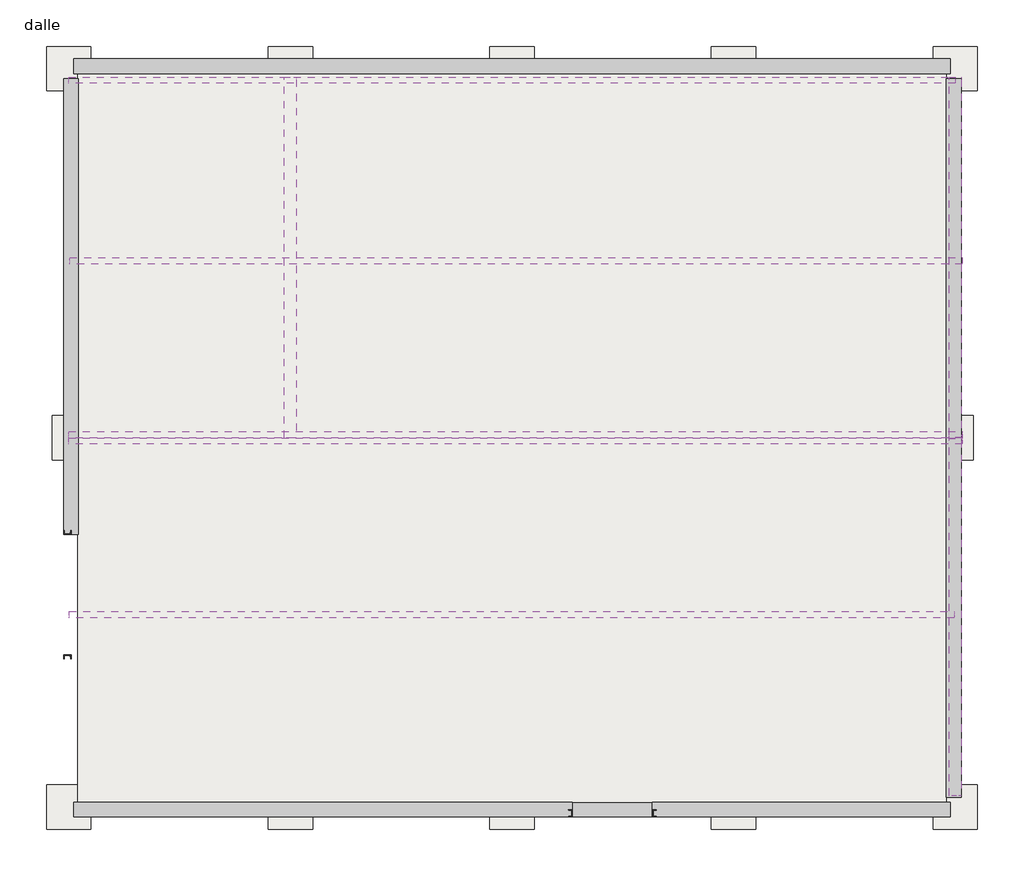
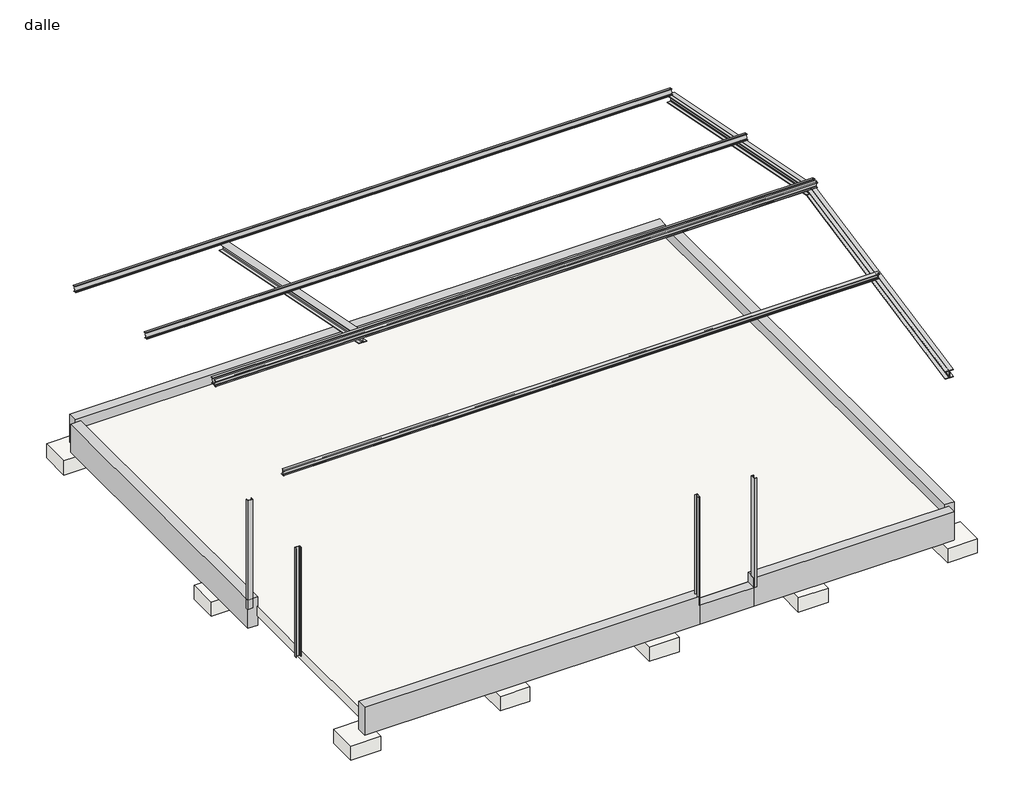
# One storey: 14 beams, 13 slabs, 4 columns.
"""IFC4 building model written with IfcOpenShell, lengths in millimetres."""

from ifc_helpers import new_model, si_unit, point, frame, frame_2d, origin, origin_with_axes, place, context, project, spatial, polyline, circle_curve, ellipse_curve, trimmed, segment, composite_curve, outline, extrude, faceted_brep, transform, mapped, element, save
from ifc_brep_helpers import plane_surface, revolved_surface, advanced_brep
from components import ipe_ipe120_c653d2c4, ipe_ipe120_d9a7a0b2, ipe_ipe120_cd6d0a2a, ipe_ipe120_51c86144, ipe_ipe120_70a96d47

model = new_model("IFC4")

# Units and contexts
model_context = context("Model", 3, world=origin())
ifc_project = project(units=[si_unit("LENGTHUNIT", "METRE", prefix="MILLI")], contexts=[model_context])

# Site, building, storey
site = spatial("IfcSite", under=ifc_project)
building = spatial("IfcBuilding", under=site)
storey = spatial("IfcBuildingStorey", under=building, Name="dalle", Elevation=0.0)

# Beams
placement = place(None, origin())
element("IfcBeam", 1, ObjectType="Poutre rectangulaire - Béton : longrine", at=placement, inside=storey, context=model_context, shape_type="SweptSolid", body=[
    extrude(outline(polyline([(-4301.8291149, 11052.4635983), (-4301.8291149, 10852.4635983), (-16165.8291149, 10852.4635983), (-16165.8291149, 11052.4635983), (-4301.8291149, 11052.4635983)])), frame((0.0, 0.0, -400.0), z_axis=(0.0, 0.0, 1.0), x_axis=(1.0, 0.0, 0.0)), (0.0, 0.0, 1.0), 600.0),
])
element("IfcBeam", 2, ObjectType="Poutre rectangulaire - Béton : longrine", at=placement, inside=storey, context=model_context, shape_type="SweptSolid", body=[
    extrude(outline(polyline([(-4153.8291149, 1052.4635983), (-4353.8291149, 1052.4635983), (-4353.8291149, 10781.4635983), (-4153.8291149, 10781.4635983), (-4153.8291149, 1052.4635983)])), frame((0.0, 0.0, -400.0), z_axis=(0.0, 0.0, 1.0), x_axis=(1.0, 0.0, 0.0)), (0.0, 0.0, 1.0), 600.0),
])
element("IfcBeam", 3, ObjectType="Poutre rectangulaire - Béton : longrine", at=placement, inside=storey, context=model_context, shape_type="Brep", body=[
    faceted_brep([(-16164.1291149, 982.4635983, 200.0), (-16164.1291149, 982.4635983, -400.0), (-16164.1291149, 782.4635983, -400.0), (-16164.1291149, 782.4635983, 200.0), (-9418.4291149, 982.4635983, 200.0), (-9418.4291149, 782.4635983, 200.0), (-9418.4291149, 782.4635983, 0.0), (-9418.4291149, 782.4635983, -400.0), (-9418.4291149, 982.4635983, -400.0), (-9418.4291149, 982.4635983, 0.0)], [[[0, 1, 2, 3]], [[4, 5, 6, 7, 8, 9]], [[1, 0, 4, 9, 8]], [[2, 1, 8, 7]], [[3, 2, 7, 6, 5]], [[0, 3, 5, 4]]]),
])
element("IfcBeam", 4, ObjectType="Poutre rectangulaire - Béton : longrine", at=placement, inside=storey, context=model_context, shape_type="Brep", body=[
    faceted_brep([(-16301.3291149, 4612.2741428, 200.0), (-16301.3291149, 4612.2741428, 0.0), (-16301.3291149, 4612.2741428, -400.0), (-16101.3291149, 4612.2741428, -400.0), (-16101.3291149, 4612.2741428, -200.0), (-16110.5291149, 4612.2741428, -200.0), (-16110.5291149, 4612.2741428, 0.0), (-16101.3291149, 4612.2741428, 0.0), (-16101.3291149, 4612.2741428, 200.0), (-16301.3291149, 10781.9741428, 200.0), (-16101.3291149, 10781.9741428, 200.0), (-16101.3291149, 10781.9741428, 0.0), (-16110.5291149, 10781.9741428, 0.0), (-16110.5291149, 10781.9741428, -200.0), (-16101.3291149, 10781.9741428, -200.0), (-16101.3291149, 10781.9741428, -400.0), (-16301.3291149, 10781.9741428, -400.0)], [[[0, 1, 2, 3, 4, 5, 6, 7, 8]], [[9, 10, 11, 12, 13, 14, 15, 16]], [[2, 1, 0, 9, 16]], [[3, 2, 16, 15]], [[3, 15, 14, 4]], [[0, 8, 10, 9]], [[6, 12, 11, 7]], [[12, 6, 5, 13]], [[13, 5, 4, 14]], [[10, 8, 7, 11]]]),
])
element("IfcBeam", 5, ObjectType="Poutre rectangulaire - Béton : longrine", at=placement, inside=storey, context=model_context, shape_type="SweptSolid", body=[
    extrude(outline(polyline([(-8333.0291149, 782.4635983), (-8333.0291149, 982.4635983), (-4301.3291149, 982.4635983), (-4301.3291149, 782.4635983), (-8333.0291149, 782.4635983)])), frame((0.0, 0.0, -399.8400082), z_axis=(0.0, 0.0, 1.0), x_axis=(1.0, 0.0, 0.0)), (0.0, 0.0, 1.0), 600.0),
])
element("IfcBeam", 6, ObjectType="Poutre rectangulaire - Béton : petie longrine", at=placement, inside=storey, context=model_context, shape_type="SweptSolid", body=[
    extrude(outline(polyline([(-8333.0291149, 982.4635983), (-8333.0291149, 782.4635983), (-9418.4291149, 782.4635983), (-9418.4291149, 982.4635983), (-8333.0291149, 982.4635983)])), frame((0.0, 0.0, -400.0), z_axis=(0.0, 0.0, 1.0), x_axis=(1.0, 0.0, 0.0)), (0.0, 0.0, 1.0), 400.0),
])
element("IfcBeam", 7, ObjectType="HE-A : HEA160", at=placement, inside=storey, context=model_context, shape_type="AdvancedBrep", body=[
    advanced_brep(
    [(-4313.8291149, 5908.0261193, 3825.2805461), (-4251.8291149, 5908.0261193, 3825.2805461), (-4236.8291149, 5905.0843773, 3839.9892562), (-4236.8291149, 5884.6882992, 3941.9696465), (-4251.8291149, 5881.7465572, 3956.6783566), (-4313.8291149, 5881.7465572, 3956.6783566), (-4313.8291149, 5879.981512, 3965.5035827), (-4153.8291149, 5879.981512, 3965.5035827), (-4153.8291149, 5881.7465572, 3956.6783566), (-4215.8291149, 5881.7465572, 3956.6783566), (-4230.8291149, 5884.6882992, 3941.9696465), (-4230.8291149, 5905.0843773, 3839.9892562), (-4215.8291149, 5908.0261193, 3825.2805461), (-4153.8291149, 5908.0261193, 3825.2805461), (-4153.8291149, 5909.7911645, 3816.45532), (-4313.8291149, 5909.7911645, 3816.45532), (-4313.8291149, 1072.4635983, 2858.1680419), (-4251.8291149, 1072.4635983, 2858.1680419), (-4236.8291149, 1072.4635983, 2873.4651005), (-4236.8291149, 1072.4635983, 2979.5247063), (-4251.8291149, 1072.4635983, 2994.8217649), (-4313.8291149, 1072.4635983, 2994.8217649), (-4313.8291149, 1072.4635983, 3004.0), (-4153.8291149, 1072.4635983, 3004.0), (-4153.8291149, 1072.4635983, 2994.8217649), (-4215.8291149, 1072.4635983, 2994.8217649), (-4230.8291149, 1072.4635983, 2979.5247063), (-4230.8291149, 1072.4635983, 2873.4651005), (-4215.8291149, 1072.4635983, 2858.1680419), (-4153.8291149, 1072.4635983, 2858.1680419), (-4153.8291149, 1072.4635983, 2848.9898068), (-4313.8291149, 1072.4635983, 2848.9898068)],
    [
        (0, 1),
        (1, 2, circle_curve(frame((-4251.8291149, 5905.0843773, 3839.9892562), z_axis=(0.0, -0.9805806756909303, -0.19611613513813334), x_axis=(1.0, 0.0, 0.0)), 15.0)),
        (2, 3),
        (3, 4, circle_curve(frame((-4251.8291149, 5884.6882992, 3941.9696465), z_axis=(0.0, -0.9805806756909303, -0.19611613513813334), x_axis=(1.0, 0.0, 0.0)), 15.0)),
        (4, 5),
        (5, 6),
        (6, 7),
        (7, 8),
        (8, 9),
        (9, 10, circle_curve(frame((-4215.8291149, 5884.6882992, 3941.9696465), z_axis=(0.0, -0.9805806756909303, -0.19611613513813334), x_axis=(1.0, 0.0, 0.0)), 15.0)),
        (10, 11),
        (11, 12, circle_curve(frame((-4215.8291149, 5905.0843773, 3839.9892562), z_axis=(0.0, -0.9805806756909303, -0.19611613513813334), x_axis=(1.0, 0.0, 0.0)), 15.0)),
        (12, 13),
        (13, 14),
        (14, 15),
        (15, 0),
        (0, 16),
        (16, 17),
        (17, 1),
        (17, 18, ellipse_curve(frame((-4251.8291149, 1072.4635983, 2873.4651005), z_axis=(0.0, -1.0, 0.0), x_axis=(0.0, 0.0, -0.9999999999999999)), 15.2970585, 15.0)),
        (18, 2),
        (18, 19),
        (19, 3),
        (19, 20, ellipse_curve(frame((-4251.8291149, 1072.4635983, 2979.5247063), z_axis=(0.0, -1.0, 0.0), x_axis=(0.0, 0.0, -0.9999999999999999)), 15.2970585, 15.0)),
        (20, 4),
        (20, 21),
        (21, 5),
        (21, 22),
        (22, 6),
        (22, 23),
        (23, 7),
        (23, 24),
        (24, 8),
        (24, 25),
        (25, 9),
        (25, 26, ellipse_curve(frame((-4215.8291149, 1072.4635983, 2979.5247063), z_axis=(0.0, -1.0, 0.0), x_axis=(0.0, 0.0, -0.9999999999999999)), 15.2970585, 15.0)),
        (26, 10),
        (26, 27),
        (27, 11),
        (27, 28, ellipse_curve(frame((-4215.8291149, 1072.4635983, 2873.4651005), z_axis=(0.0, -1.0, 0.0), x_axis=(0.0, 0.0, -0.9999999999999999)), 15.2970585, 15.0)),
        (28, 12),
        (28, 29),
        (29, 13),
        (29, 30),
        (30, 14),
        (30, 31),
        (31, 15),
        (31, 16),
    ],
    [
        plane_surface(frame((-4233.8291149, 5894.8863382, 3890.9794514), z_axis=(0.0, 0.9805806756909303, 0.19611613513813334), x_axis=(0.0, -0.19611613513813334, 0.9805806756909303))),
        plane_surface(frame((-4313.8291149, 5908.0261193, 3825.2805461), z_axis=(0.0, -0.19611613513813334, 0.9805806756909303), x_axis=(0.0, -0.9805806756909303, -0.19611613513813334))),
        revolved_surface(polyline([(-4236.8291149, 1069.5218562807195, 2872.876751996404), (-4236.8291149, 5905.0843773, 3839.9892562)]), (-4251.8291149, 5905.0843773, 3839.9892562), (0.0, -0.9805806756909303, -0.19611613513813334)),
        plane_surface(frame((-4236.8291149, 5905.0843773, 3839.9892562), z_axis=(-1.0, 0.0, 0.0), x_axis=(0.0, -0.9805806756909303, -0.19611613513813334))),
        revolved_surface(polyline([(-4236.8291149, 1069.5218562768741, 2978.936357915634), (-4236.8291149, 5884.68829921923, 3941.969646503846)]), (-4251.8291149, 5884.6882992, 3941.9696465), (0.0, -0.9805806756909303, -0.19611613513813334)),
        plane_surface(frame((-4251.8291149, 5881.7465572, 3956.6783566), z_axis=(0.0, 0.19611613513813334, -0.9805806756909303), x_axis=(0.0, -0.9805806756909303, -0.19611613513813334))),
        plane_surface(frame((-4313.8291149, 5881.7465572, 3956.6783566), z_axis=(-1.0, 0.0, 0.0), x_axis=(0.0, -0.9805806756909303, -0.19611613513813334))),
        plane_surface(frame((-4313.8291149, 5879.981512, 3965.5035827), z_axis=(0.0, -0.19611613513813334, 0.9805806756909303), x_axis=(0.0, -0.9805806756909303, -0.19611613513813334))),
        plane_surface(frame((-4153.8291149, 5879.981512, 3965.5035827), z_axis=(1.0, 0.0, 0.0), x_axis=(0.0, -0.9805806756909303, -0.19611613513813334))),
        plane_surface(frame((-4153.8291149, 5881.7465572, 3956.6783566), z_axis=(0.0, 0.19611613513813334, -0.9805806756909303), x_axis=(0.0, -0.9805806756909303, -0.19611613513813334))),
        revolved_surface(polyline([(-4200.8291149, 1069.5218562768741, 2978.936357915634), (-4200.8291149, 5884.68829921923, 3941.969646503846)]), (-4215.8291149, 5884.6882992, 3941.9696465), (0.0, -0.9805806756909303, -0.19611613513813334)),
        plane_surface(frame((-4230.8291149, 5884.6882992, 3941.9696465), z_axis=(1.0, 0.0, 0.0), x_axis=(0.0, -0.9805806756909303, -0.19611613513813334))),
        revolved_surface(polyline([(-4200.8291149, 1069.5218562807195, 2872.876751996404), (-4200.8291149, 5905.0843773, 3839.9892562)]), (-4215.8291149, 5905.0843773, 3839.9892562), (0.0, -0.9805806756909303, -0.19611613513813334)),
        plane_surface(frame((-4215.8291149, 5908.0261193, 3825.2805461), z_axis=(0.0, -0.19611613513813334, 0.9805806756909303), x_axis=(0.0, -0.9805806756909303, -0.19611613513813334))),
        plane_surface(frame((-4153.8291149, 5908.0261193, 3825.2805461), z_axis=(1.0, 0.0, 0.0), x_axis=(0.0, -0.9805806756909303, -0.19611613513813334))),
        plane_surface(frame((-4153.8291149, 5909.7911645, 3816.45532), z_axis=(0.0, 0.19611613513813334, -0.9805806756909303), x_axis=(0.0, -0.9805806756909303, -0.19611613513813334))),
        plane_surface(frame((-4313.8291149, 5909.7911645, 3816.45532), z_axis=(-1.0, 0.0, 0.0), x_axis=(0.0, -0.9805806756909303, -0.19611613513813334))),
        plane_surface(frame((-4321.3291149, 1072.4635983, -420.0), z_axis=(0.0, -1.0, 0.0), x_axis=(0.0, 0.0, 1.0))),
    ],
    [
        (0, [[1, 2, 3, 4, 5, 6, 7, 8, 9, 10, 11, 12, 13, 14, 15, 16]]),
        (1, [[-1, 17, 18, 19]]),
        (2, [[-2, -19, 20, 21]]),
        (3, [[-3, -21, 22, 23]]),
        (4, [[-4, -23, 24, 25]]),
        (5, [[-5, -25, 26, 27]]),
        (6, [[-6, -27, 28, 29]]),
        (7, [[-7, -29, 30, 31]]),
        (8, [[-8, -31, 32, 33]]),
        (9, [[-9, -33, 34, 35]]),
        (10, [[-10, -35, 36, 37]]),
        (11, [[-11, -37, 38, 39]]),
        (12, [[-12, -39, 40, 41]]),
        (13, [[-13, -41, 42, 43]]),
        (14, [[-14, -43, 44, 45]]),
        (15, [[-15, -45, 46, 47]]),
        (16, [[-16, -47, 48, -17]]),
        (17, [[-18, -48, -46, -44, -42, -40, -38, -36, -34, -32, -30, -28, -26, -24, -22, -20]]),
    ],
),
])
element("IfcBeam", 8, ObjectType="HE-A : HEA160", at=placement, inside=storey, context=model_context, shape_type="SweptSolid", body=[
    extrude(outline(composite_curve([segment(polyline([(-67.0, 80.0), (-67.0, 18.0)]), True, "CONTINUOUS"), segment(trimmed(circle_curve(frame_2d((-52.0, 18.0)), 15.0), [point((-67.0, 18.0))], [point((-52.0, 3.0))], True, "CARTESIAN"), True, "CONTINUOUS"), segment(polyline([(-52.0, 3.0), (52.0, 3.0)]), True, "CONTINUOUS"), segment(trimmed(circle_curve(frame_2d((52.0, 18.0)), 15.0), [point((52.0, 3.0))], [point((67.0, 18.0))], True, "CARTESIAN"), True, "CONTINUOUS"), segment(polyline([(67.0, 18.0), (67.0, 80.0), (75.9999999, 80.0), (75.9999999, -80.0), (67.0, -80.0), (67.0, -18.0)]), True, "CONTINUOUS"), segment(trimmed(circle_curve(frame_2d((52.0, -18.0)), 15.0), [point((67.0, -18.0))], [point((52.0, -3.0))], True, "CARTESIAN"), True, "CONTINUOUS"), segment(polyline([(52.0, -3.0), (-52.0, -3.0)]), True, "CONTINUOUS"), segment(trimmed(circle_curve(frame_2d((-52.0, -18.0)), 15.0), [point((-52.0, -3.0))], [point((-67.0, -18.0))], True, "CARTESIAN"), True, "CONTINUOUS"), segment(polyline([(-67.0, -18.0), (-67.0, -80.0), (-76.0000001, -80.0), (-76.0000001, 80.0), (-67.0, 80.0)]), True, "CONTINUOUS")], self_intersect=False)), frame((-4233.8291149, 10784.8938609, 2922.0088509), z_axis=(0.0, -0.9805806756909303, 0.19611613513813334), x_axis=(0.0, 0.19611613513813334, 0.9805806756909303)), (0.0, 0.0, 1.0), 4940.8),
])
element("IfcBeam", 9, ObjectType="HE-A : HEA160", at=placement, inside=storey, context=model_context, shape_type="AdvancedBrep", body=[
    advanced_brep(
    [(-13317.1291149, 10771.7540798, 2856.3099456), (-13255.1291149, 10771.7540798, 2856.3099456), (-13240.1291149, 10774.6958218, 2871.0186558), (-13240.1291149, 10795.0918999, 2972.999046), (-13255.1291149, 10798.0336419, 2987.7077562), (-13317.1291149, 10798.0336419, 2987.7077562), (-13317.1291149, 10799.7986871, 2996.5329822), (-13157.1291149, 10799.7986871, 2996.5329822), (-13157.1291149, 10798.0336419, 2987.7077562), (-13219.1291149, 10798.0336419, 2987.7077562), (-13234.1291149, 10795.0918999, 2972.999046), (-13234.1291149, 10774.6958218, 2871.0186558), (-13219.1291149, 10771.7540798, 2856.3099456), (-13157.1291149, 10771.7540798, 2856.3099456), (-13157.1291149, 10769.9890346, 2847.4847195), (-13317.1291149, 10769.9890346, 2847.4847195), (-13255.1291149, 5917.4635983, 3827.1680419), (-13317.1291149, 5917.4635983, 3827.1680419), (-13240.1291149, 5917.4635983, 3842.4651005), (-13240.1291149, 5917.4635983, 3948.5247063), (-13255.1291149, 5917.4635983, 3963.8217649), (-13317.1291149, 5917.4635983, 3963.8217649), (-13317.1291149, 5917.4635983, 3973.0), (-13157.1291149, 5917.4635983, 3973.0), (-13157.1291149, 5917.4635983, 3963.8217649), (-13219.1291149, 5917.4635983, 3963.8217649), (-13234.1291149, 5917.4635983, 3948.5247063), (-13234.1291149, 5917.4635983, 3842.4651005), (-13219.1291149, 5917.4635983, 3827.1680419), (-13157.1291149, 5917.4635983, 3827.1680419), (-13157.1291149, 5917.4635983, 3817.9898068), (-13317.1291149, 5917.4635983, 3817.9898068)],
    [
        (0, 1),
        (1, 2, circle_curve(frame((-13255.1291149, 10774.6958218, 2871.0186558), z_axis=(0.0, -0.9805806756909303, 0.19611613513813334), x_axis=(1.0, 0.0, 0.0)), 15.0)),
        (2, 3),
        (3, 4, circle_curve(frame((-13255.1291149, 10795.0918999, 2972.999046), z_axis=(0.0, -0.9805806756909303, 0.19611613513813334), x_axis=(1.0, 0.0, 0.0)), 15.0)),
        (4, 5),
        (5, 6),
        (6, 7),
        (7, 8),
        (8, 9),
        (9, 10, circle_curve(frame((-13219.1291149, 10795.0918999, 2972.999046), z_axis=(0.0, -0.9805806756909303, 0.19611613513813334), x_axis=(1.0, 0.0, 0.0)), 15.0)),
        (10, 11),
        (11, 12, circle_curve(frame((-13219.1291149, 10774.6958218, 2871.0186558), z_axis=(0.0, -0.9805806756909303, 0.19611613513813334), x_axis=(1.0, 0.0, 0.0)), 15.0)),
        (12, 13),
        (13, 14),
        (14, 15),
        (15, 0),
        (16, 1),
        (0, 17),
        (17, 16),
        (18, 2),
        (16, 18, ellipse_curve(frame((-13255.1291149, 5917.4635983, 3842.4651005), z_axis=(0.0, -1.0, 0.0), x_axis=(0.0, 0.0, -0.9999999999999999)), 15.2970585, 15.0)),
        (19, 3),
        (18, 19),
        (20, 4),
        (19, 20, ellipse_curve(frame((-13255.1291149, 5917.4635983, 3948.5247063), z_axis=(0.0, -1.0, 0.0), x_axis=(0.0, 0.0, -0.9999999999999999)), 15.2970585, 15.0)),
        (21, 5),
        (20, 21),
        (22, 6),
        (21, 22),
        (23, 7),
        (22, 23),
        (24, 8),
        (23, 24),
        (25, 9),
        (24, 25),
        (26, 10),
        (25, 26, ellipse_curve(frame((-13219.1291149, 5917.4635983, 3948.5247063), z_axis=(0.0, -1.0, 0.0), x_axis=(0.0, 0.0, -0.9999999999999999)), 15.2970585, 15.0)),
        (27, 11),
        (26, 27),
        (28, 12),
        (27, 28, ellipse_curve(frame((-13219.1291149, 5917.4635983, 3842.4651005), z_axis=(0.0, -1.0, 0.0), x_axis=(0.0, 0.0, -0.9999999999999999)), 15.2970585, 15.0)),
        (29, 13),
        (28, 29),
        (30, 14),
        (29, 30),
        (31, 15),
        (30, 31),
        (31, 17),
    ],
    [
        plane_surface(frame((-13237.1291149, 10784.8938609, 2922.0088509), z_axis=(0.0, 0.9805806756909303, -0.19611613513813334), x_axis=(0.0, 0.19611613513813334, 0.9805806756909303))),
        plane_surface(frame((-13317.1291149, 5892.9595727, 3832.068847), z_axis=(0.0, 0.19611613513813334, 0.9805806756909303), x_axis=(0.0, 0.9805806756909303, -0.19611613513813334))),
        revolved_surface(polyline([(-13240.1291149, 10774.695821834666, 2871.018655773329), (-13240.1291149, 5914.521856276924, 3843.053448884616)]), (-13255.1291149, 5895.9013147, 3846.7775572), (0.0, 0.9805806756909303, -0.19611613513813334)),
        plane_surface(frame((-13240.1291149, 5895.9013147, 3846.7775572), z_axis=(-1.0, 0.0, 0.0), x_axis=(0.0, 0.9805806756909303, -0.19611613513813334))),
        revolved_surface(polyline([(-13240.1291149, 10795.09189991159, 2972.9990460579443), (-13240.1291149, 5914.521856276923, 3949.113054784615)]), (-13255.1291149, 5916.2973927, 3948.7579475), (0.0, 0.9805806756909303, -0.19611613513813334)),
        plane_surface(frame((-13255.1291149, 5919.2391348, 3963.4666576), z_axis=(0.0, -0.19611613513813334, -0.9805806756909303), x_axis=(0.0, 0.9805806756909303, -0.19611613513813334))),
        plane_surface(frame((-13317.1291149, 5919.2391348, 3963.4666576), z_axis=(-1.0, 0.0, 0.0), x_axis=(0.0, 0.9805806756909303, -0.19611613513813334))),
        plane_surface(frame((-13317.1291149, 5921.00418, 3972.2918837), z_axis=(0.0, 0.19611613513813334, 0.9805806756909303), x_axis=(0.0, 0.9805806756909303, -0.19611613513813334))),
        plane_surface(frame((-13157.1291149, 5921.00418, 3972.2918837), z_axis=(1.0, 0.0, 0.0), x_axis=(0.0, 0.9805806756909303, -0.19611613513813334))),
        plane_surface(frame((-13157.1291149, 5919.2391348, 3963.4666576), z_axis=(0.0, -0.19611613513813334, -0.9805806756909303), x_axis=(0.0, 0.9805806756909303, -0.19611613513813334))),
        revolved_surface(polyline([(-13204.1291149, 10795.09189991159, 2972.9990460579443), (-13204.1291149, 5914.521856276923, 3949.113054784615)]), (-13219.1291149, 5916.2973927, 3948.7579475), (0.0, 0.9805806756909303, -0.19611613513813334)),
        plane_surface(frame((-13234.1291149, 5916.2973927, 3948.7579475), z_axis=(1.0, 0.0, 0.0), x_axis=(0.0, 0.9805806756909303, -0.19611613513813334))),
        revolved_surface(polyline([(-13204.1291149, 10774.695821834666, 2871.018655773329), (-13204.1291149, 5914.521856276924, 3843.053448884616)]), (-13219.1291149, 5895.9013147, 3846.7775572), (0.0, 0.9805806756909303, -0.19611613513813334)),
        plane_surface(frame((-13219.1291149, 5892.9595727, 3832.068847), z_axis=(0.0, 0.19611613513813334, 0.9805806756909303), x_axis=(0.0, 0.9805806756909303, -0.19611613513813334))),
        plane_surface(frame((-13157.1291149, 5892.9595727, 3832.068847), z_axis=(1.0, 0.0, 0.0), x_axis=(0.0, 0.9805806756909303, -0.19611613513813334))),
        plane_surface(frame((-13157.1291149, 5891.1945274, 3823.243621), z_axis=(0.0, -0.19611613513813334, -0.9805806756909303), x_axis=(0.0, 0.9805806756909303, -0.19611613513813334))),
        plane_surface(frame((-13317.1291149, 5891.1945274, 3823.243621), z_axis=(-1.0, 0.0, 0.0), x_axis=(0.0, 0.9805806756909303, -0.19611613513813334))),
        plane_surface(frame((-13237.1291149, 5917.4635983, 3817.9898068), z_axis=(0.0, -1.0, 0.0), x_axis=(0.0, 0.0, 1.0))),
    ],
    [
        (0, [[1, 2, 3, 4, 5, 6, 7, 8, 9, 10, 11, 12, 13, 14, 15, 16]]),
        (1, [[17, -1, 18, 19]]),
        (2, [[20, -2, -17, 21]]),
        (3, [[22, -3, -20, 23]]),
        (4, [[24, -4, -22, 25]]),
        (5, [[26, -5, -24, 27]]),
        (6, [[28, -6, -26, 29]]),
        (7, [[30, -7, -28, 31]]),
        (8, [[32, -8, -30, 33]]),
        (9, [[34, -9, -32, 35]]),
        (10, [[36, -10, -34, 37]]),
        (11, [[38, -11, -36, 39]]),
        (12, [[40, -12, -38, 41]]),
        (13, [[42, -13, -40, 43]]),
        (14, [[44, -14, -42, 45]]),
        (15, [[46, -15, -44, 47]]),
        (16, [[-18, -16, -46, 48]]),
        (17, [[-48, -47, -45, -43, -41, -39, -37, -35, -33, -31, -29, -27, -25, -23, -21, -19]]),
    ],
),
])
ipe_ipe120_shape = ipe_ipe120_c653d2c4(model_context)
element("IfcBeam", 10, ObjectType="IPE : IPE120", at=placement, inside=storey, context=model_context, shape_type="MappedRepresentation", body=[
    mapped(ipe_ipe120_shape, transform((-10233.8291149, 10760.5515556, 3065.5706427), x_axis=(1.0, 0.0, 0.0), y_axis=(0.0, 0.9805806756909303, -0.19611613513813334), z_axis=(0.0, 0.19611613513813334, 0.9805806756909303))),
])
ipe_ipe120_2_shape = ipe_ipe120_d9a7a0b2(model_context)
element("IfcBeam", 11, ObjectType="IPE : IPE120", at=placement, inside=storey, context=model_context, shape_type="MappedRepresentation", body=[
    mapped(ipe_ipe120_2_shape, transform((-10233.8291149, 3520.9244269, 3554.8803999), x_axis=(1.0, 0.0, 0.0), y_axis=(0.0, 0.9805806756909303, 0.19611613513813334), z_axis=(0.0, -0.19611613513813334, 0.9805806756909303))),
])
ipe_ipe120_3_shape = ipe_ipe120_cd6d0a2a(model_context)
element("IfcBeam", 12, ObjectType="IPE : IPE120", at=placement, inside=storey, context=model_context, shape_type="MappedRepresentation", body=[
    mapped(ipe_ipe120_3_shape, transform((-10233.8291149, 5874.3180486, 4025.5591242), x_axis=(1.0, 0.0, 0.0), y_axis=(0.0, 0.9805806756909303, 0.19611613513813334), z_axis=(0.0, -0.19611613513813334, 0.9805806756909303))),
])
ipe_ipe120_4_shape = ipe_ipe120_51c86144(model_context)
element("IfcBeam", 13, ObjectType="IPE : IPE120", at=placement, inside=storey, context=model_context, shape_type="MappedRepresentation", body=[
    mapped(ipe_ipe120_4_shape, transform((-10233.8291149, 5960.6091481, 4025.5591242), x_axis=(1.0, 0.0, 0.0), y_axis=(0.0, 0.9805806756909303, -0.19611613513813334), z_axis=(0.0, 0.19611613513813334, 0.9805806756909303))),
])
ipe_ipe120_5_shape = ipe_ipe120_70a96d47(model_context)
element("IfcBeam", 14, ObjectType="IPE : IPE120", at=placement, inside=storey, context=model_context, shape_type="MappedRepresentation", body=[
    mapped(ipe_ipe120_5_shape, transform((-10233.8291149, 8314.0027697, 3554.8803999), x_axis=(1.0, 0.0, 0.0), y_axis=(0.0, 0.9805806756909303, -0.19611613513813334), z_axis=(0.0, 0.19611613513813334, 0.9805806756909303))),
])

# Columns
element("IfcColumn", 15, ObjectType="Poteau U : U100", at=placement, inside=storey, context=model_context, shape_type="SweptSolid", body=[
    extrude(outline(composite_curve([segment(polyline([(-9419.3291149, 782.4635983), (-9469.3291149, 782.4635983), (-9469.3291149, 784.810658)]), True, "CONTINUOUS"), segment(trimmed(circle_curve(frame_2d((-9464.8291149, 784.810658)), 4.5), [point((-9469.3291149, 784.810658))], [point((-9465.1876614, 789.2963513))], False, "CARTESIAN"), True, "CONTINUOUS"), segment(polyline([(-9465.1876614, 789.2963513), (-9433.1518604, 791.8570088)]), True, "CONTINUOUS"), segment(trimmed(circle_curve(frame_2d((-9433.8291149, 800.3299851)), 8.5), [point((-9433.1518604, 791.8570088))], [point((-9425.3291149, 800.3299851))], True, "CARTESIAN"), True, "CONTINUOUS"), segment(polyline([(-9425.3291149, 800.3299851), (-9425.3291149, 864.5972116)]), True, "CONTINUOUS"), segment(trimmed(circle_curve(frame_2d((-9433.8291149, 864.5972116)), 8.5), [point((-9425.3291149, 864.5972116))], [point((-9433.1518604, 873.0701878))], True, "CARTESIAN"), True, "CONTINUOUS"), segment(polyline([(-9433.1518604, 873.0701878), (-9465.1876614, 875.6308454)]), True, "CONTINUOUS"), segment(trimmed(circle_curve(frame_2d((-9464.8291149, 880.1165387)), 4.5), [point((-9465.1876614, 875.6308454))], [point((-9469.3291149, 880.1165387))], False, "CARTESIAN"), True, "CONTINUOUS"), segment(polyline([(-9469.3291149, 880.1165387), (-9469.3291149, 882.4635983), (-9419.3291149, 882.4635983), (-9419.3291149, 782.4635983)]), True, "CONTINUOUS")], self_intersect=False)), origin_with_axes(), (0.0, 0.0, 1.0), 2314.5),
])
element("IfcColumn", 16, ObjectType="Poteau U : U100", at=placement, inside=storey, context=model_context, shape_type="SweptSolid", body=[
    extrude(outline(composite_curve([segment(polyline([(-8329.3291149, 882.4635983), (-8279.3291149, 882.4635983), (-8279.3291149, 880.1165387)]), True, "CONTINUOUS"), segment(trimmed(circle_curve(frame_2d((-8283.8291149, 880.1165387)), 4.5), [point((-8279.3291149, 880.1165387))], [point((-8283.4705684, 875.6308454))], False, "CARTESIAN"), True, "CONTINUOUS"), segment(polyline([(-8283.4705684, 875.6308454), (-8315.5063694, 873.0701878)]), True, "CONTINUOUS"), segment(trimmed(circle_curve(frame_2d((-8314.8291149, 864.5972116)), 8.5), [point((-8315.5063694, 873.0701878))], [point((-8323.3291149, 864.5972116))], True, "CARTESIAN"), True, "CONTINUOUS"), segment(polyline([(-8323.3291149, 864.5972116), (-8323.3291149, 800.3299851)]), True, "CONTINUOUS"), segment(trimmed(circle_curve(frame_2d((-8314.8291149, 800.3299851)), 8.5), [point((-8323.3291149, 800.3299851))], [point((-8315.5063694, 791.8570088))], True, "CARTESIAN"), True, "CONTINUOUS"), segment(polyline([(-8315.5063694, 791.8570088), (-8283.4705684, 789.2963513)]), True, "CONTINUOUS"), segment(trimmed(circle_curve(frame_2d((-8283.8291149, 784.810658)), 4.5), [point((-8283.4705684, 789.2963513))], [point((-8279.3291149, 784.810658))], False, "CARTESIAN"), True, "CONTINUOUS"), segment(polyline([(-8279.3291149, 784.810658), (-8279.3291149, 782.4635983), (-8329.3291149, 782.4635983), (-8329.3291149, 882.4635983)]), True, "CONTINUOUS")], self_intersect=False)), origin_with_axes(), (0.0, 0.0, 1.0), 2314.5),
])
element("IfcColumn", 17, ObjectType="Poteau U : U100", at=placement, inside=storey, context=model_context, shape_type="SweptSolid", body=[
    extrude(outline(composite_curve([segment(polyline([(-16301.3291149, 4611.9635983), (-16301.3291149, 4661.9635983), (-16298.9820553, 4661.9635983)]), True, "CONTINUOUS"), segment(trimmed(circle_curve(frame_2d((-16298.9820553, 4657.4635983)), 4.5), [point((-16298.9820553, 4661.9635983))], [point((-16294.496362, 4657.8221448))], False, "CARTESIAN"), True, "CONTINUOUS"), segment(polyline([(-16294.496362, 4657.8221448), (-16291.9357044, 4625.7863438)]), True, "CONTINUOUS"), segment(trimmed(circle_curve(frame_2d((-16283.4627281, 4626.4635983)), 8.5), [point((-16291.9357044, 4625.7863438))], [point((-16283.4627281, 4617.9635983))], True, "CARTESIAN"), True, "CONTINUOUS"), segment(polyline([(-16283.4627281, 4617.9635983), (-16219.1955016, 4617.9635983)]), True, "CONTINUOUS"), segment(trimmed(circle_curve(frame_2d((-16219.1955016, 4626.4635983)), 8.5), [point((-16219.1955016, 4617.9635983))], [point((-16210.7225254, 4625.7863438))], True, "CARTESIAN"), True, "CONTINUOUS"), segment(polyline([(-16210.7225254, 4625.7863438), (-16208.1618678, 4657.8221448)]), True, "CONTINUOUS"), segment(trimmed(circle_curve(frame_2d((-16203.6761745, 4657.4635983)), 4.5), [point((-16208.1618678, 4657.8221448))], [point((-16203.6761745, 4661.9635983))], False, "CARTESIAN"), True, "CONTINUOUS"), segment(polyline([(-16203.6761745, 4661.9635983), (-16201.3291149, 4661.9635983), (-16201.3291149, 4611.9635983), (-16301.3291149, 4611.9635983)]), True, "CONTINUOUS")], self_intersect=False)), origin_with_axes(), (0.0, 0.0, 1.0), 2314.5),
])
element("IfcColumn", 18, ObjectType="Poteau U : U100", at=placement, inside=storey, context=model_context, shape_type="SweptSolid", body=[
    extrude(outline(composite_curve([segment(polyline([(-16201.3291149, 2976.0935819), (-16201.3291149, 2926.0935819), (-16203.6761745, 2926.0935819)]), True, "CONTINUOUS"), segment(trimmed(circle_curve(frame_2d((-16203.6761745, 2930.5935819)), 4.5), [point((-16203.6761745, 2926.0935819))], [point((-16208.1618678, 2930.2350354))], False, "CARTESIAN"), True, "CONTINUOUS"), segment(polyline([(-16208.1618678, 2930.2350354), (-16210.7225254, 2962.2708364)]), True, "CONTINUOUS"), segment(trimmed(circle_curve(frame_2d((-16219.1955016, 2961.5935819)), 8.5), [point((-16210.7225254, 2962.2708364))], [point((-16219.1955016, 2970.0935819))], True, "CARTESIAN"), True, "CONTINUOUS"), segment(polyline([(-16219.1955016, 2970.0935819), (-16283.4627281, 2970.0935819)]), True, "CONTINUOUS"), segment(trimmed(circle_curve(frame_2d((-16283.4627281, 2961.5935819)), 8.5), [point((-16283.4627281, 2970.0935819))], [point((-16291.9357044, 2962.2708364))], True, "CARTESIAN"), True, "CONTINUOUS"), segment(polyline([(-16291.9357044, 2962.2708364), (-16294.496362, 2930.2350354)]), True, "CONTINUOUS"), segment(trimmed(circle_curve(frame_2d((-16298.9820553, 2930.5935819)), 4.5), [point((-16294.496362, 2930.2350354))], [point((-16298.9820553, 2926.0935819))], False, "CARTESIAN"), True, "CONTINUOUS"), segment(polyline([(-16298.9820553, 2926.0935819), (-16301.3291149, 2926.0935819), (-16301.3291149, 2976.0935819), (-16201.3291149, 2976.0935819)]), True, "CONTINUOUS")], self_intersect=False)), origin_with_axes(), (0.0, 0.0, 1.0), 2314.5),
])

# Slabs
element("IfcSlab", 19, ObjectType="Dalle en béton -200", at=placement, inside=storey, context=model_context, shape_type="Brep", body=[
    faceted_brep([(-4356.3291149, 10852.4635983, -200.0), (-4356.3291149, 982.4635983, -200.0), (-16110.5291149, 982.4635983, -200.0), (-16110.5291149, 1052.8785901, -200.0), (-16110.5291149, 2975.5785901, -200.0), (-16110.5291149, 4612.2741428, -200.0), (-16110.5291149, 10781.9741428, -200.0), (-16110.5291149, 10852.4635983, -200.0), (-4356.3291149, 10852.4635983, 0.0), (-16110.5291149, 10852.4635983, 0.0), (-16110.5291149, 10781.9741428, 0.0), (-16110.5291149, 4612.2741428, 0.0), (-16110.5291149, 2975.5785901, 0.0), (-16110.5291149, 1052.8785901, 0.0), (-16110.5291149, 982.4635983, 0.0), (-9418.4291149, 982.4635983, 0.0), (-8333.0291149, 982.4635983, 0.0), (-4356.3291149, 982.4635983, 0.0)], [[[0, 1, 2, 3, 4, 5, 6, 7]], [[8, 9, 10, 11, 12, 13, 14, 15, 16, 17]], [[1, 0, 8, 17]], [[2, 1, 17, 16, 15, 14]], [[7, 6, 5, 4, 3, 2, 14, 13, 12, 11, 10, 9]], [[0, 7, 9, 8]]]),
])
element("IfcSlab", 20, ObjectType="Base rectangulaire : 600x 600 x300", at=placement, inside=storey, context=model_context, shape_type="SweptSolid", body=[
    extrude(outline(polyline([(-15933.8291149, 11217.4635983), (-15933.8291149, 10617.4635983), (-16533.8291149, 10617.4635983), (-16533.8291149, 11217.4635983), (-15933.8291149, 11217.4635983)])), frame((0.0, 0.0, -700.0), z_axis=(0.0, 0.0, 1.0), x_axis=(1.0, 0.0, 0.0)), (0.0, 0.0, 1.0), 300.0),
    extrude(outline(polyline([(-15933.8291149, 11217.4635983), (-15933.8291149, 10617.4635983), (-16533.8291149, 10617.4635983), (-16533.8291149, 11217.4635983), (-15933.8291149, 11217.4635983)])), frame((0.0, 0.0, -700.0), z_axis=(0.0, 0.0, 1.0), x_axis=(1.0, 0.0, 0.0)), (0.0, 0.0, 1.0), 300.0),
])
element("IfcSlab", 21, ObjectType="Base rectangulaire : 600x 600 x300", at=placement, inside=storey, context=model_context, shape_type="SweptSolid", body=[
    extrude(outline(polyline([(-12933.8291149, 11217.4635983), (-12933.8291149, 10617.4635983), (-13533.8291149, 10617.4635983), (-13533.8291149, 11217.4635983), (-12933.8291149, 11217.4635983)])), frame((0.0, 0.0, -700.0), z_axis=(0.0, 0.0, 1.0), x_axis=(1.0, 0.0, 0.0)), (0.0, 0.0, 1.0), 300.0),
    extrude(outline(polyline([(-12933.8291149, 11217.4635983), (-12933.8291149, 10617.4635983), (-13533.8291149, 10617.4635983), (-13533.8291149, 11217.4635983), (-12933.8291149, 11217.4635983)])), frame((0.0, 0.0, -700.0), z_axis=(0.0, 0.0, 1.0), x_axis=(1.0, 0.0, 0.0)), (0.0, 0.0, 1.0), 300.0),
])
element("IfcSlab", 22, ObjectType="Base rectangulaire : 600x 600 x300", at=placement, inside=storey, context=model_context, shape_type="SweptSolid", body=[
    extrude(outline(polyline([(-9933.8291149, 11217.4635983), (-9933.8291149, 10617.4635983), (-10533.8291149, 10617.4635983), (-10533.8291149, 11217.4635983), (-9933.8291149, 11217.4635983)])), frame((0.0, 0.0, -700.0), z_axis=(0.0, 0.0, 1.0), x_axis=(1.0, 0.0, 0.0)), (0.0, 0.0, 1.0), 300.0),
    extrude(outline(polyline([(-9933.8291149, 11217.4635983), (-9933.8291149, 10617.4635983), (-10533.8291149, 10617.4635983), (-10533.8291149, 11217.4635983), (-9933.8291149, 11217.4635983)])), frame((0.0, 0.0, -700.0), z_axis=(0.0, 0.0, 1.0), x_axis=(1.0, 0.0, 0.0)), (0.0, 0.0, 1.0), 300.0),
])
element("IfcSlab", 23, ObjectType="Base rectangulaire : 600x 600 x300", at=placement, inside=storey, context=model_context, shape_type="SweptSolid", body=[
    extrude(outline(polyline([(-6933.8291149, 11217.4635983), (-6933.8291149, 10617.4635983), (-7533.8291149, 10617.4635983), (-7533.8291149, 11217.4635983), (-6933.8291149, 11217.4635983)])), frame((0.0, 0.0, -700.0), z_axis=(0.0, 0.0, 1.0), x_axis=(1.0, 0.0, 0.0)), (0.0, 0.0, 1.0), 300.0),
    extrude(outline(polyline([(-6933.8291149, 11217.4635983), (-6933.8291149, 10617.4635983), (-7533.8291149, 10617.4635983), (-7533.8291149, 11217.4635983), (-6933.8291149, 11217.4635983)])), frame((0.0, 0.0, -700.0), z_axis=(0.0, 0.0, 1.0), x_axis=(1.0, 0.0, 0.0)), (0.0, 0.0, 1.0), 300.0),
])
element("IfcSlab", 24, ObjectType="Base rectangulaire : 600x 600 x300", at=placement, inside=storey, context=model_context, shape_type="SweptSolid", body=[
    extrude(outline(polyline([(-3933.8291149, 11217.4635983), (-3933.8291149, 10617.4635983), (-4533.8291149, 10617.4635983), (-4533.8291149, 11217.4635983), (-3933.8291149, 11217.4635983)])), frame((0.0, 0.0, -700.0), z_axis=(0.0, 0.0, 1.0), x_axis=(1.0, 0.0, 0.0)), (0.0, 0.0, 1.0), 300.0),
    extrude(outline(polyline([(-3933.8291149, 11217.4635983), (-3933.8291149, 10617.4635983), (-4533.8291149, 10617.4635983), (-4533.8291149, 11217.4635983), (-3933.8291149, 11217.4635983)])), frame((0.0, 0.0, -700.0), z_axis=(0.0, 0.0, 1.0), x_axis=(1.0, 0.0, 0.0)), (0.0, 0.0, 1.0), 300.0),
])
element("IfcSlab", 25, ObjectType="Base rectangulaire : 600x 600 x300", at=placement, inside=storey, context=model_context, shape_type="SweptSolid", body=[
    extrude(outline(polyline([(-15933.8291149, 1217.4635983), (-15933.8291149, 617.4635983), (-16533.8291149, 617.4635983), (-16533.8291149, 1217.4635983), (-15933.8291149, 1217.4635983)])), frame((0.0, 0.0, -700.0), z_axis=(0.0, 0.0, 1.0), x_axis=(1.0, 0.0, 0.0)), (0.0, 0.0, 1.0), 300.0),
    extrude(outline(polyline([(-15933.8291149, 1217.4635983), (-15933.8291149, 617.4635983), (-16533.8291149, 617.4635983), (-16533.8291149, 1217.4635983), (-15933.8291149, 1217.4635983)])), frame((0.0, 0.0, -700.0), z_axis=(0.0, 0.0, 1.0), x_axis=(1.0, 0.0, 0.0)), (0.0, 0.0, 1.0), 300.0),
])
element("IfcSlab", 26, ObjectType="Base rectangulaire : 600x 600 x300", at=placement, inside=storey, context=model_context, shape_type="SweptSolid", body=[
    extrude(outline(polyline([(-12933.8291149, 1217.4635983), (-12933.8291149, 617.4635983), (-13533.8291149, 617.4635983), (-13533.8291149, 1217.4635983), (-12933.8291149, 1217.4635983)])), frame((0.0, 0.0, -700.0), z_axis=(0.0, 0.0, 1.0), x_axis=(1.0, 0.0, 0.0)), (0.0, 0.0, 1.0), 300.0),
    extrude(outline(polyline([(-12933.8291149, 1217.4635983), (-12933.8291149, 617.4635983), (-13533.8291149, 617.4635983), (-13533.8291149, 1217.4635983), (-12933.8291149, 1217.4635983)])), frame((0.0, 0.0, -700.0), z_axis=(0.0, 0.0, 1.0), x_axis=(1.0, 0.0, 0.0)), (0.0, 0.0, 1.0), 300.0),
])
element("IfcSlab", 27, ObjectType="Base rectangulaire : 600x 600 x300", at=placement, inside=storey, context=model_context, shape_type="SweptSolid", body=[
    extrude(outline(polyline([(-9933.8291149, 1217.4635983), (-9933.8291149, 617.4635983), (-10533.8291149, 617.4635983), (-10533.8291149, 1217.4635983), (-9933.8291149, 1217.4635983)])), frame((0.0, 0.0, -700.0), z_axis=(0.0, 0.0, 1.0), x_axis=(1.0, 0.0, 0.0)), (0.0, 0.0, 1.0), 300.0),
    extrude(outline(polyline([(-9933.8291149, 1217.4635983), (-9933.8291149, 617.4635983), (-10533.8291149, 617.4635983), (-10533.8291149, 1217.4635983), (-9933.8291149, 1217.4635983)])), frame((0.0, 0.0, -700.0), z_axis=(0.0, 0.0, 1.0), x_axis=(1.0, 0.0, 0.0)), (0.0, 0.0, 1.0), 300.0),
])
element("IfcSlab", 28, ObjectType="Base rectangulaire : 600x 600 x300", at=placement, inside=storey, context=model_context, shape_type="SweptSolid", body=[
    extrude(outline(polyline([(-6933.8291149, 1217.4635983), (-6933.8291149, 617.4635983), (-7533.8291149, 617.4635983), (-7533.8291149, 1217.4635983), (-6933.8291149, 1217.4635983)])), frame((0.0, 0.0, -700.0), z_axis=(0.0, 0.0, 1.0), x_axis=(1.0, 0.0, 0.0)), (0.0, 0.0, 1.0), 300.0),
    extrude(outline(polyline([(-6933.8291149, 1217.4635983), (-6933.8291149, 617.4635983), (-7533.8291149, 617.4635983), (-7533.8291149, 1217.4635983), (-6933.8291149, 1217.4635983)])), frame((0.0, 0.0, -700.0), z_axis=(0.0, 0.0, 1.0), x_axis=(1.0, 0.0, 0.0)), (0.0, 0.0, 1.0), 300.0),
])
element("IfcSlab", 29, ObjectType="Base rectangulaire : 600x 600 x300", at=placement, inside=storey, context=model_context, shape_type="SweptSolid", body=[
    extrude(outline(polyline([(-3933.8291149, 1217.4635983), (-3933.8291149, 617.4635983), (-4533.8291149, 617.4635983), (-4533.8291149, 1217.4635983), (-3933.8291149, 1217.4635983)])), frame((0.0, 0.0, -700.0), z_axis=(0.0, 0.0, 1.0), x_axis=(1.0, 0.0, 0.0)), (0.0, 0.0, 1.0), 300.0),
    extrude(outline(polyline([(-3933.8291149, 1217.4635983), (-3933.8291149, 617.4635983), (-4533.8291149, 617.4635983), (-4533.8291149, 1217.4635983), (-3933.8291149, 1217.4635983)])), frame((0.0, 0.0, -700.0), z_axis=(0.0, 0.0, 1.0), x_axis=(1.0, 0.0, 0.0)), (0.0, 0.0, 1.0), 300.0),
])
element("IfcSlab", 30, ObjectType="Base rectangulaire : 600x 600 x300", at=placement, inside=storey, context=model_context, shape_type="SweptSolid", body=[
    extrude(outline(polyline([(-15853.8291149, 6217.4635983), (-15853.8291149, 5617.4635983), (-16453.8291149, 5617.4635983), (-16453.8291149, 6217.4635983), (-15853.8291149, 6217.4635983)])), frame((0.0, 0.0, -700.0), z_axis=(0.0, 0.0, 1.0), x_axis=(1.0, 0.0, 0.0)), (0.0, 0.0, 1.0), 300.0),
    extrude(outline(polyline([(-15853.8291149, 6217.4635983), (-15853.8291149, 5617.4635983), (-16453.8291149, 5617.4635983), (-16453.8291149, 6217.4635983), (-15853.8291149, 6217.4635983)])), frame((0.0, 0.0, -700.0), z_axis=(0.0, 0.0, 1.0), x_axis=(1.0, 0.0, 0.0)), (0.0, 0.0, 1.0), 300.0),
])
element("IfcSlab", 31, ObjectType="Base rectangulaire : 600x 600 x300", at=placement, inside=storey, context=model_context, shape_type="SweptSolid", body=[
    extrude(outline(polyline([(-3988.8291149, 6217.4635983), (-3988.8291149, 5617.4635983), (-4588.8291149, 5617.4635983), (-4588.8291149, 6217.4635983), (-3988.8291149, 6217.4635983)])), frame((0.0, 0.0, -700.0), z_axis=(0.0, 0.0, 1.0), x_axis=(1.0, 0.0, 0.0)), (0.0, 0.0, 1.0), 300.0),
    extrude(outline(polyline([(-3988.8291149, 6217.4635983), (-3988.8291149, 5617.4635983), (-4588.8291149, 5617.4635983), (-4588.8291149, 6217.4635983), (-3988.8291149, 6217.4635983)])), frame((0.0, 0.0, -700.0), z_axis=(0.0, 0.0, 1.0), x_axis=(1.0, 0.0, 0.0)), (0.0, 0.0, 1.0), 300.0),
])

save(model, "model.ifc")
